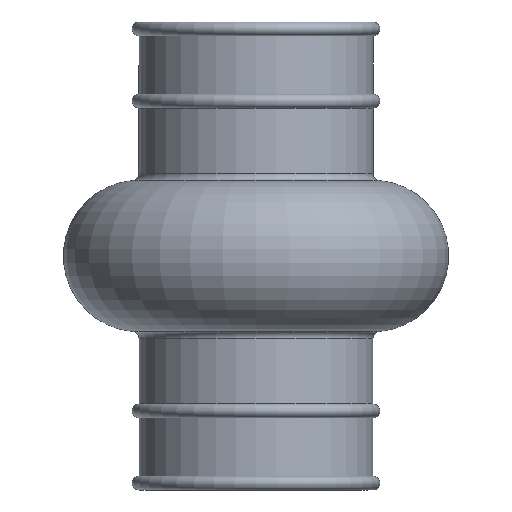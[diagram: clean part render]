
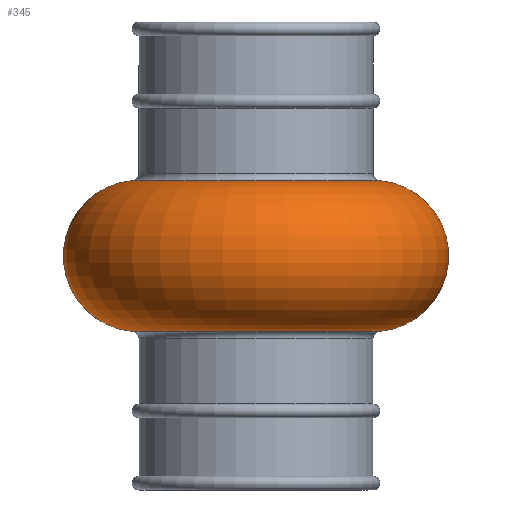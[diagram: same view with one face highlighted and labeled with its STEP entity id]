
A CAD part, left-side view. The second image highlights one B-rep face of the part: STEP entity #345.
In plain terms, the highlighted toroidal (fillet/blend) face has major radius 8.5 mm and minor radius 5.5 mm.
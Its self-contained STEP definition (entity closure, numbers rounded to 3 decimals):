
#10 = AXIS2_PLACEMENT_3D ( 'NONE', #330, #135, #661 ) ;
#17 = EDGE_LOOP ( 'NONE', ( #605, #688, #372, #635 ) ) ;
#47 = CARTESIAN_POINT ( 'NONE',  ( 0., 0., 0. ) ) ;
#125 = CARTESIAN_POINT ( 'NONE',  ( 0., 8.958, -5.481 ) ) ;
#129 = AXIS2_PLACEMENT_3D ( 'NONE', #723, #786, #797 ) ;
#135 = DIRECTION ( 'NONE',  ( -1., 0., 0. ) ) ;
#142 = CIRCLE ( 'NONE', #10, 5.5 ) ;
#149 = CARTESIAN_POINT ( 'NONE',  ( 0., 8.958, 5.481 ) ) ;
#169 = VERTEX_POINT ( 'NONE', #588 ) ;
#177 = CIRCLE ( 'NONE', #709, 5.5 ) ;
#185 = CARTESIAN_POINT ( 'NONE',  ( 0., -8.958, 5.481 ) ) ;
#207 = EDGE_CURVE ( 'NONE', #506, #169, #739, .T. ) ;
#258 = VERTEX_POINT ( 'NONE', #149 ) ;
#278 = AXIS2_PLACEMENT_3D ( 'NONE', #47, #307, #579 ) ;
#307 = DIRECTION ( 'NONE',  ( 0., 0., -1. ) ) ;
#325 = TOROIDAL_SURFACE ( 'NONE', #278, 8.5, 5.5 ) ;
#330 = CARTESIAN_POINT ( 'NONE',  ( 0., 8.5, 0. ) ) ;
#332 = EDGE_CURVE ( 'NONE', #405, #169, #177, .T. ) ;
#345 = ADVANCED_FACE ( 'NONE', ( #544 ), #325, .T. ) ;
#372 = ORIENTED_EDGE ( 'NONE', *, *, #694, .T. ) ;
#405 = VERTEX_POINT ( 'NONE', #185 ) ;
#474 = CARTESIAN_POINT ( 'NONE',  ( 0., 0., -5.481 ) ) ;
#506 = VERTEX_POINT ( 'NONE', #125 ) ;
#543 = DIRECTION ( 'NONE',  ( 0., -1., 0. ) ) ;
#544 = FACE_OUTER_BOUND ( 'NONE', #17, .T. ) ;
#563 = DIRECTION ( 'NONE',  ( 1., 0., 0. ) ) ;
#579 = DIRECTION ( 'NONE',  ( 0., 1., 0. ) ) ;
#588 = CARTESIAN_POINT ( 'NONE',  ( 0., -8.958, -5.481 ) ) ;
#605 = ORIENTED_EDGE ( 'NONE', *, *, #332, .F. ) ;
#607 = CIRCLE ( 'NONE', #129, 8.958 ) ;
#635 = ORIENTED_EDGE ( 'NONE', *, *, #207, .T. ) ;
#661 = DIRECTION ( 'NONE',  ( 0., 0., 1. ) ) ;
#672 = EDGE_CURVE ( 'NONE', #405, #258, #607, .T. ) ;
#674 = DIRECTION ( 'NONE',  ( 0., 0., 1. ) ) ;
#680 = AXIS2_PLACEMENT_3D ( 'NONE', #474, #674, #543 ) ;
#688 = ORIENTED_EDGE ( 'NONE', *, *, #672, .T. ) ;
#694 = EDGE_CURVE ( 'NONE', #258, #506, #142, .T. ) ;
#709 = AXIS2_PLACEMENT_3D ( 'NONE', #778, #563, #710 ) ;
#710 = DIRECTION ( 'NONE',  ( 0., 1., 0. ) ) ;
#723 = CARTESIAN_POINT ( 'NONE',  ( 0., 0., 5.481 ) ) ;
#739 = CIRCLE ( 'NONE', #680, 8.958 ) ;
#778 = CARTESIAN_POINT ( 'NONE',  ( 0., -8.5, 0. ) ) ;
#786 = DIRECTION ( 'NONE',  ( 0., 0., -1. ) ) ;
#797 = DIRECTION ( 'NONE',  ( 0., 1., 0. ) ) ;
